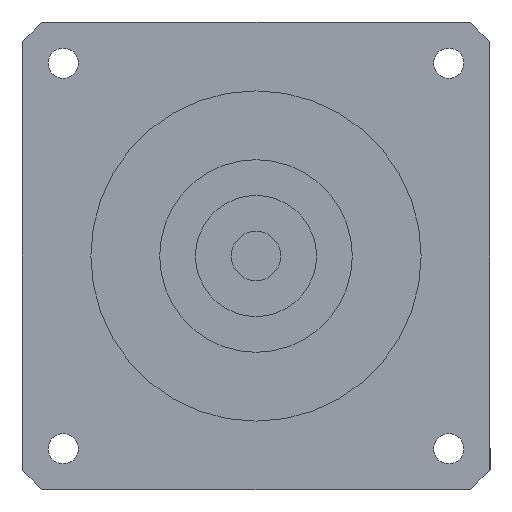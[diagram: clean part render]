
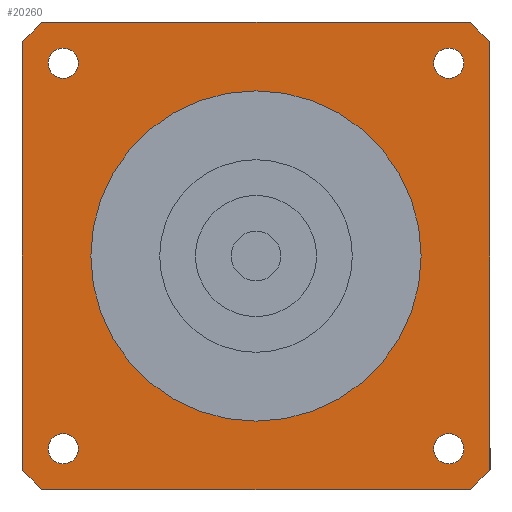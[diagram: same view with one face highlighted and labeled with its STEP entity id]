
A CAD part, left-side view. The second image highlights one B-rep face of the part: STEP entity #20260.
In plain terms, the highlighted planar face has unit normal (-1, 0, 0) as drawn and (0, 0, -1) by its records, which use the part's own axes.
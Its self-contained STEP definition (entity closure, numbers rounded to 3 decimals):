
#11110=CARTESIAN_POINT('',(-42.5,38.73,-59.));
#11120=VERTEX_POINT('',#11110);
#11270=CARTESIAN_POINT('',(-42.5,-38.73,-59.));
#11280=VERTEX_POINT('',#11270);
#11310=CARTESIAN_POINT('',(-42.5,42.5,-59.));
#11320=DIRECTION('',(0.,-1.,0.));
#11330=VECTOR('',#11320,1000.);
#11340=LINE('',#11310,#11330);
#11350=EDGE_CURVE('',#11120,#11280,#11340,.T.);
#12930=CARTESIAN_POINT('',(-38.73,-42.5,-59.));
#12940=VERTEX_POINT('',#12930);
#12970=CARTESIAN_POINT('',(0.,0.,
-59.));
#12980=DIRECTION('',(0.,0.,1.));
#12990=DIRECTION('',(0.,-1.,0.));
#13000=AXIS2_PLACEMENT_3D('',#12970,#12980,#12990);
#13010=CIRCLE('',#13000,57.5);
#13020=EDGE_CURVE('',#11280,#12940,#13010,.T.);
#17850=CARTESIAN_POINT('',(-38.73,42.5,-59.));
#17860=VERTEX_POINT('',#17850);
#17910=CARTESIAN_POINT('',(0.,0.,
-59.));
#17920=DIRECTION('',(0.,0.,1.));
#17930=DIRECTION('',(0.,-1.,0.));
#17940=AXIS2_PLACEMENT_3D('',#17910,#17920,#17930);
#17950=CIRCLE('',#17940,57.5);
#17960=EDGE_CURVE('',#17860,#11120,#17950,.T.);
#18100=CARTESIAN_POINT('',(38.73,42.5,-59.));
#18110=VERTEX_POINT('',#18100);
#18160=CARTESIAN_POINT('',(42.5,42.5,-59.));
#18170=DIRECTION('',(-1.,0.,0.));
#18180=VECTOR('',#18170,1000.);
#18190=LINE('',#18160,#18180);
#18200=EDGE_CURVE('',#18110,#17860,#18190,.T.);
#18310=CARTESIAN_POINT('',(0.,0.,
-59.));
#18320=DIRECTION('',(0.,0.,1.));
#18330=DIRECTION('',(0.,-1.,0.));
#18340=AXIS2_PLACEMENT_3D('',#18310,#18320,#18330);
#18350=CIRCLE('',#18340,57.5);
#18360=CARTESIAN_POINT('',(42.5,38.73,-59.));
#18370=VERTEX_POINT('',#18360);
#18380=EDGE_CURVE('',#18370,#18110,#18350,.T.);
#18590=CARTESIAN_POINT('',(42.5,-38.73,-59.));
#18600=VERTEX_POINT('',#18590);
#18650=CARTESIAN_POINT('',(42.5,-42.5,-59.));
#18660=DIRECTION('',(0.,1.,0.));
#18670=VECTOR('',#18660,1000.);
#18680=LINE('',#18650,#18670);
#18690=EDGE_CURVE('',#18600,#18370,#18680,.T.);
#18830=CARTESIAN_POINT('',(38.73,-42.5,-59.));
#18840=VERTEX_POINT('',#18830);
#18890=CARTESIAN_POINT('',(0.,0.,
-59.));
#18900=DIRECTION('',(0.,0.,1.));
#18910=DIRECTION('',(0.,-1.,0.));
#18920=AXIS2_PLACEMENT_3D('',#18890,#18900,#18910);
#18930=CIRCLE('',#18920,57.5);
#18940=EDGE_CURVE('',#18840,#18600,#18930,.T.);
#19070=CARTESIAN_POINT('',(-42.5,-42.5,-59.));
#19080=DIRECTION('',(1.,0.,0.));
#19090=VECTOR('',#19080,1000.);
#19100=LINE('',#19070,#19090);
#19110=EDGE_CURVE('',#12940,#18840,#19100,.T.);
#19160=CARTESIAN_POINT('',(-42.5,42.5,-59.));
#19170=DIRECTION('',(0.,0.,1.));
#19180=DIRECTION('',(-1.,0.,0.));
#19190=AXIS2_PLACEMENT_3D('',#19160,#19170,#19180);
#19200=PLANE('',#19190);
#19210=CARTESIAN_POINT('',(35.002,-35.002,-59.));
#19220=DIRECTION('',(0.,0.,-1.));
#19230=DIRECTION('',(1.,0.,0.));
#19240=AXIS2_PLACEMENT_3D('',#19210,#19220,#19230);
#19250=CIRCLE('',#19240,2.75);
#19260=CARTESIAN_POINT('',(37.752,-35.002,-59.));
#19270=VERTEX_POINT('',#19260);
#19280=CARTESIAN_POINT('',(35.002,-37.752,-59.));
#19290=VERTEX_POINT('',#19280);
#19300=EDGE_CURVE('',#19270,#19290,#19250,.T.);
#19310=ORIENTED_EDGE('',*,*,#19300,.F.);
#19320=CARTESIAN_POINT('',(35.002,-32.252,-59.));
#19330=VERTEX_POINT('',#19320);
#19340=EDGE_CURVE('',#19290,#19330,#19250,.T.);
#19350=ORIENTED_EDGE('',*,*,#19340,.F.);
#19360=EDGE_CURVE('',#19330,#19270,#19250,.T.);
#19370=ORIENTED_EDGE('',*,*,#19360,.F.);
#19380=EDGE_LOOP('',(#19370,#19350,#19310));
#19390=FACE_BOUND('',#19380,.T.);
#19400=CARTESIAN_POINT('',(35.002,35.002,-59.));
#19410=DIRECTION('',(0.,0.,-1.));
#19420=DIRECTION('',(0.,1.,0.));
#19430=AXIS2_PLACEMENT_3D('',#19400,#19410,#19420);
#19440=CIRCLE('',#19430,2.75);
#19450=CARTESIAN_POINT('',(35.002,37.752,-59.));
#19460=VERTEX_POINT('',#19450);
#19470=CARTESIAN_POINT('',(37.752,35.002,-59.));
#19480=VERTEX_POINT('',#19470);
#19490=EDGE_CURVE('',#19460,#19480,#19440,.T.);
#19500=ORIENTED_EDGE('',*,*,#19490,.F.);
#19510=CARTESIAN_POINT('',(32.252,35.002,-59.));
#19520=VERTEX_POINT('',#19510);
#19530=EDGE_CURVE('',#19480,#19520,#19440,.T.);
#19540=ORIENTED_EDGE('',*,*,#19530,.F.);
#19550=EDGE_CURVE('',#19520,#19460,#19440,.T.);
#19560=ORIENTED_EDGE('',*,*,#19550,.F.);
#19570=EDGE_LOOP('',(#19560,#19540,#19500));
#19580=FACE_BOUND('',#19570,.T.);
#19590=CARTESIAN_POINT('',(-35.002,35.002,-59.));
#19600=DIRECTION('',(0.,0.,-1.));
#19610=DIRECTION('',(-1.,0.,0.));
#19620=AXIS2_PLACEMENT_3D('',#19590,#19600,#19610);
#19630=CIRCLE('',#19620,2.75);
#19640=CARTESIAN_POINT('',(-37.752,35.002,-59.));
#19650=VERTEX_POINT('',#19640);
#19660=CARTESIAN_POINT('',(-35.002,37.752,-59.));
#19670=VERTEX_POINT('',#19660);
#19680=EDGE_CURVE('',#19650,#19670,#19630,.T.);
#19690=ORIENTED_EDGE('',*,*,#19680,.F.);
#19700=CARTESIAN_POINT('',(-35.002,32.252,-59.));
#19710=VERTEX_POINT('',#19700);
#19720=EDGE_CURVE('',#19670,#19710,#19630,.T.);
#19730=ORIENTED_EDGE('',*,*,#19720,.F.);
#19740=EDGE_CURVE('',#19710,#19650,#19630,.T.);
#19750=ORIENTED_EDGE('',*,*,#19740,.F.);
#19760=EDGE_LOOP('',(#19750,#19730,#19690));
#19770=FACE_BOUND('',#19760,.T.);
#19780=CARTESIAN_POINT('',(-35.002,-35.002,-59.));
#19790=DIRECTION('',(0.,0.,-1.));
#19800=DIRECTION('',(0.,-1.,0.));
#19810=AXIS2_PLACEMENT_3D('',#19780,#19790,#19800);
#19820=CIRCLE('',#19810,2.75);
#19830=CARTESIAN_POINT('',(-35.002,-37.752,-59.));
#19840=VERTEX_POINT('',#19830);
#19850=CARTESIAN_POINT('',(-37.752,-35.002,-59.));
#19860=VERTEX_POINT('',#19850);
#19870=EDGE_CURVE('',#19840,#19860,#19820,.T.);
#19880=ORIENTED_EDGE('',*,*,#19870,.F.);
#19890=CARTESIAN_POINT('',(-32.252,-35.002,-59.));
#19900=VERTEX_POINT('',#19890);
#19910=EDGE_CURVE('',#19860,#19900,#19820,.T.);
#19920=ORIENTED_EDGE('',*,*,#19910,.F.);
#19930=EDGE_CURVE('',#19900,#19840,#19820,.T.);
#19940=ORIENTED_EDGE('',*,*,#19930,.F.);
#19950=EDGE_LOOP('',(#19940,#19920,#19880));
#19960=FACE_BOUND('',#19950,.T.);
#19970=ORIENTED_EDGE('',*,*,#13020,.F.);
#19980=ORIENTED_EDGE('',*,*,#19110,.F.);
#19990=ORIENTED_EDGE('',*,*,#18940,.F.);
#20000=ORIENTED_EDGE('',*,*,#18690,.F.);
#20010=ORIENTED_EDGE('',*,*,#18380,.F.);
#20020=ORIENTED_EDGE('',*,*,#18200,.F.);
#20030=ORIENTED_EDGE('',*,*,#17960,.F.);
#20040=ORIENTED_EDGE('',*,*,#11350,.F.);
#20050=EDGE_LOOP('',(#20040,#20030,#20020,#20010,#20000,#19990,#19980,
#19970));
#20060=FACE_OUTER_BOUND('',#20050,.T.);
#20070=CARTESIAN_POINT('',(0.,0.,
-59.));
#20080=DIRECTION('',(0.,0.,1.));
#20090=DIRECTION('',(0.,-1.,0.));
#20100=AXIS2_PLACEMENT_3D('',#20070,#20080,#20090);
#20110=CIRCLE('',#20100,30.);
#20120=CARTESIAN_POINT('',(30.,0.,-59.));
#20130=VERTEX_POINT('',#20120);
#20140=CARTESIAN_POINT('',(-30.,0.,-59.));
#20150=VERTEX_POINT('',#20140);
#20160=EDGE_CURVE('',#20130,#20150,#20110,.T.);
#20170=ORIENTED_EDGE('',*,*,#20160,.T.);
#20180=CARTESIAN_POINT('',(0.,-30.,-59.));
#20190=VERTEX_POINT('',#20180);
#20200=EDGE_CURVE('',#20190,#20130,#20110,.T.);
#20210=ORIENTED_EDGE('',*,*,#20200,.T.);
#20220=EDGE_CURVE('',#20150,#20190,#20110,.T.);
#20230=ORIENTED_EDGE('',*,*,#20220,.T.);
#20240=EDGE_LOOP('',(#20230,#20210,#20170));
#20250=FACE_BOUND('',#20240,.T.);
#20260=ADVANCED_FACE('',(#19390,#19580,#19770,#19960,#20060,#20250),
#19200,.F.);
